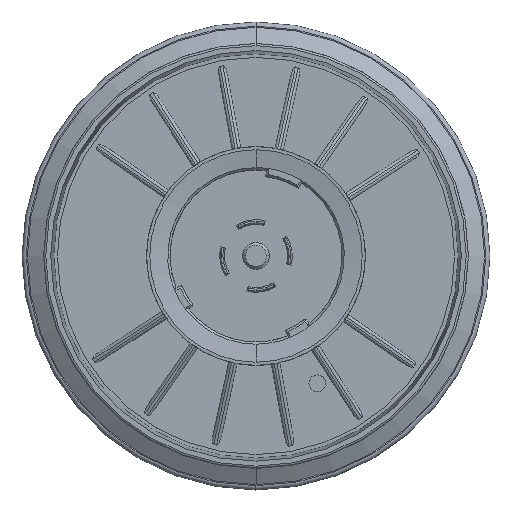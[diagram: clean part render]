
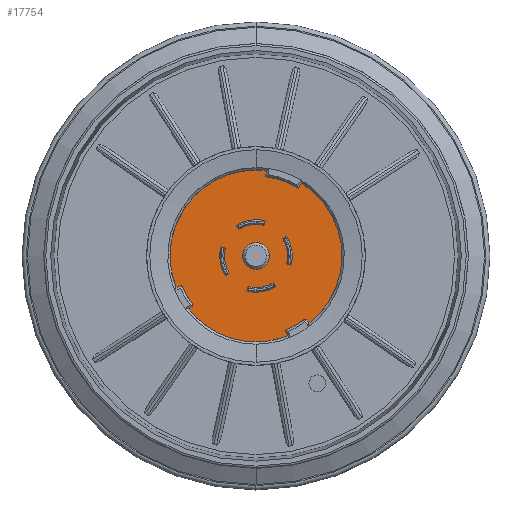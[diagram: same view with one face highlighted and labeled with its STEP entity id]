
A CAD part, top view. The second image highlights one B-rep face of the part: STEP entity #17754.
In plain terms, the highlighted planar face has unit normal (0, 0, 1).
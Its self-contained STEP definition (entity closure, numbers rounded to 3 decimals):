
#4462=CARTESIAN_POINT('',(0.,0.,-7.85));
#4463=DIRECTION('',(0.,0.,-1.));
#4464=DIRECTION('',(0.53,0.848,0.));
#4465=AXIS2_PLACEMENT_3D('',#4462,#4463,#4464);
#4467=CARTESIAN_POINT('',(0.,0.,-7.85));
#4468=DIRECTION('',(0.,0.,-1.));
#4469=DIRECTION('',(0.,-1.,0.));
#4470=AXIS2_PLACEMENT_3D('',#4467,#4468,#4469);
#4472=CARTESIAN_POINT('',(0.,0.,-7.85));
#4473=DIRECTION('',(0.,0.,-1.));
#4474=DIRECTION('',(-0.53,-0.848,0.));
#4475=AXIS2_PLACEMENT_3D('',#4472,#4473,#4474);
#4477=CARTESIAN_POINT('',(0.,0.,-7.85));
#4478=DIRECTION('',(0.,0.,-1.));
#4479=DIRECTION('',(0.,1.,0.));
#4480=AXIS2_PLACEMENT_3D('',#4477,#4478,#4479);
#4482=DIRECTION('',(0.438,0.899,0.));
#4483=VECTOR('',#4482,1.1);
#4484=CARTESIAN_POINT('',(6.181,12.673,-7.85));
#4485=LINE('',#4484,#4483);
#4486=CARTESIAN_POINT('',(0.,0.,-7.85));
#4487=DIRECTION('',(0.,0.,1.));
#4488=DIRECTION('',(0.53,0.848,0.));
#4489=AXIS2_PLACEMENT_3D('',#4486,#4487,#4488);
#4491=DIRECTION('',(-0.53,-0.848,0.));
#4492=VECTOR('',#4491,1.1);
#4493=CARTESIAN_POINT('',(8.055,12.89,-7.85));
#4494=LINE('',#4493,#4492);
#4495=CARTESIAN_POINT('',(0.,0.,-7.85));
#4496=DIRECTION('',(0.,0.,-1.));
#4497=DIRECTION('',(-1.,0.,0.));
#4498=AXIS2_PLACEMENT_3D('',#4495,#4496,#4497);
#4500=CARTESIAN_POINT('',(0.,0.,-7.85));
#4501=DIRECTION('',(0.,0.,-1.));
#4502=DIRECTION('',(1.,0.,0.));
#4503=AXIS2_PLACEMENT_3D('',#4500,#4501,#4502);
#4505=DIRECTION('',(-0.54,0.842,0.));
#4506=VECTOR('',#4505,0.8);
#4507=CARTESIAN_POINT('',(3.458,-5.386,-7.85));
#4508=LINE('',#4507,#4506);
#4509=CARTESIAN_POINT('',(0.,0.,-7.85));
#4510=DIRECTION('',(0.,0.,-1.));
#4511=DIRECTION('',(0.54,-0.842,0.));
#4512=AXIS2_PLACEMENT_3D('',#4509,#4510,#4511);
#4514=DIRECTION('',(-0.25,-0.968,0.));
#4515=VECTOR('',#4514,0.8);
#4516=CARTESIAN_POINT('',(-1.402,-5.422,-7.85));
#4517=LINE('',#4516,#4515);
#4518=CARTESIAN_POINT('',(0.,0.,-7.85));
#4519=DIRECTION('',(0.,0.,1.));
#4520=DIRECTION('',(-0.25,-0.968,0.));
#4521=AXIS2_PLACEMENT_3D('',#4518,#4519,#4520);
#4523=DIRECTION('',(-0.842,-0.54,0.));
#4524=VECTOR('',#4523,0.8);
#4525=CARTESIAN_POINT('',(5.386,3.458,-7.85));
#4526=LINE('',#4525,#4524);
#4527=CARTESIAN_POINT('',(0.,0.,-7.85));
#4528=DIRECTION('',(0.,0.,-1.));
#4529=DIRECTION('',(0.842,0.54,0.));
#4530=AXIS2_PLACEMENT_3D('',#4527,#4528,#4529);
#4532=DIRECTION('',(0.968,-0.25,0.));
#4533=VECTOR('',#4532,0.8);
#4534=CARTESIAN_POINT('',(5.422,-1.402,-7.85));
#4535=LINE('',#4534,#4533);
#4536=CARTESIAN_POINT('',(0.,0.,-7.85));
#4537=DIRECTION('',(0.,0.,1.));
#4538=DIRECTION('',(0.968,-0.25,0.));
#4539=AXIS2_PLACEMENT_3D('',#4536,#4537,#4538);
#4541=DIRECTION('',(0.54,-0.842,0.));
#4542=VECTOR('',#4541,0.8);
#4543=CARTESIAN_POINT('',(-3.458,5.386,-7.85));
#4544=LINE('',#4543,#4542);
#4545=CARTESIAN_POINT('',(0.,0.,-7.85));
#4546=DIRECTION('',(0.,0.,-1.));
#4547=DIRECTION('',(-0.54,0.842,0.));
#4548=AXIS2_PLACEMENT_3D('',#4545,#4546,#4547);
#4550=DIRECTION('',(0.25,0.968,0.));
#4551=VECTOR('',#4550,0.8);
#4552=CARTESIAN_POINT('',(1.402,5.422,-7.85));
#4553=LINE('',#4552,#4551);
#4554=CARTESIAN_POINT('',(0.,0.,-7.85));
#4555=DIRECTION('',(0.,0.,1.));
#4556=DIRECTION('',(0.25,0.968,0.));
#4557=AXIS2_PLACEMENT_3D('',#4554,#4555,#4556);
#4559=DIRECTION('',(0.842,0.54,0.));
#4560=VECTOR('',#4559,0.8);
#4561=CARTESIAN_POINT('',(-5.386,-3.458,-7.85));
#4562=LINE('',#4561,#4560);
#4563=CARTESIAN_POINT('',(0.,0.,-7.85));
#4564=DIRECTION('',(0.,0.,-1.));
#4565=DIRECTION('',(-0.842,-0.54,0.));
#4566=AXIS2_PLACEMENT_3D('',#4563,#4564,#4565);
#4568=DIRECTION('',(-0.968,0.25,0.));
#4569=VECTOR('',#4568,0.8);
#4570=CARTESIAN_POINT('',(-5.422,1.402,-7.85));
#4571=LINE('',#4570,#4569);
#4572=CARTESIAN_POINT('',(0.,0.,-7.85));
#4573=DIRECTION('',(0.,0.,1.));
#4574=DIRECTION('',(-0.968,0.25,0.));
#4575=AXIS2_PLACEMENT_3D('',#4572,#4573,#4574);
#8736=CARTESIAN_POINT('',(0.,15.2,-7.85));
#8737=CARTESIAN_POINT('',(6.663,13.662,-7.85));
#8738=VERTEX_POINT('',#8736);
#8739=VERTEX_POINT('',#8737);
#8822=CARTESIAN_POINT('',(8.055,12.89,-7.85));
#8823=VERTEX_POINT('',#8822);
#8830=CARTESIAN_POINT('',(7.472,11.957,-7.85));
#8831=VERTEX_POINT('',#8830);
#8832=CARTESIAN_POINT('',(6.181,12.673,-7.85));
#8833=VERTEX_POINT('',#8832);
#8834=CARTESIAN_POINT('',(-2.375,0.,-7.85));
#8835=CARTESIAN_POINT('',(2.375,0.,-7.85));
#8836=VERTEX_POINT('',#8834);
#8837=VERTEX_POINT('',#8835);
#9005=CARTESIAN_POINT('',(0.,-15.2,-7.85));
#9006=VERTEX_POINT('',#9005);
#9007=CARTESIAN_POINT('',(-8.055,-12.89,-7.85));
#9008=VERTEX_POINT('',#9007);
#9149=CARTESIAN_POINT('',(3.458,-5.386,-7.85));
#9150=CARTESIAN_POINT('',(3.025,-4.712,-7.85));
#9151=VERTEX_POINT('',#9149);
#9152=VERTEX_POINT('',#9150);
#9153=CARTESIAN_POINT('',(-1.402,-5.422,-7.85));
#9154=VERTEX_POINT('',#9153);
#9155=CARTESIAN_POINT('',(-1.602,-6.196,-7.85));
#9156=VERTEX_POINT('',#9155);
#9157=CARTESIAN_POINT('',(5.386,3.458,-7.85));
#9158=CARTESIAN_POINT('',(4.712,3.025,-7.85));
#9159=VERTEX_POINT('',#9157);
#9160=VERTEX_POINT('',#9158);
#9161=CARTESIAN_POINT('',(5.422,-1.402,-7.85));
#9162=VERTEX_POINT('',#9161);
#9163=CARTESIAN_POINT('',(6.196,-1.602,-7.85));
#9164=VERTEX_POINT('',#9163);
#9165=CARTESIAN_POINT('',(-3.458,5.386,-7.85));
#9166=CARTESIAN_POINT('',(-3.025,4.712,-7.85));
#9167=VERTEX_POINT('',#9165);
#9168=VERTEX_POINT('',#9166);
#9169=CARTESIAN_POINT('',(1.402,5.422,-7.85));
#9170=VERTEX_POINT('',#9169);
#9171=CARTESIAN_POINT('',(1.602,6.196,-7.85));
#9172=VERTEX_POINT('',#9171);
#9173=CARTESIAN_POINT('',(-5.386,-3.458,-7.85));
#9174=CARTESIAN_POINT('',(-4.712,-3.025,-7.85));
#9175=VERTEX_POINT('',#9173);
#9176=VERTEX_POINT('',#9174);
#9177=CARTESIAN_POINT('',(-5.422,1.402,-7.85));
#9178=VERTEX_POINT('',#9177);
#9179=CARTESIAN_POINT('',(-6.196,1.602,-7.85));
#9180=VERTEX_POINT('',#9179);
#17692=CARTESIAN_POINT('',(0.,0.,-7.85));
#17693=DIRECTION('',(0.,0.,1.));
#17694=DIRECTION('',(0.,1.,0.));
#17695=AXIS2_PLACEMENT_3D('',#17692,#17693,#17694);
#17696=PLANE('',#17695);
#17697=ORIENTED_EDGE('',*,*,#17126,.T.);
#17698=ORIENTED_EDGE('',*,*,#17124,.T.);
#17699=ORIENTED_EDGE('',*,*,#17122,.T.);
#17700=ORIENTED_EDGE('',*,*,#17120,.T.);
#17702=ORIENTED_EDGE('',*,*,#17701,.F.);
#17704=ORIENTED_EDGE('',*,*,#17703,.F.);
#17705=ORIENTED_EDGE('',*,*,#17685,.F.);
#17706=EDGE_LOOP('',(#17697,#17698,#17699,#17700,#17702,#17704,#17705));
#17707=FACE_OUTER_BOUND('',#17706,.F.);
#17709=ORIENTED_EDGE('',*,*,#17708,.F.);
#17711=ORIENTED_EDGE('',*,*,#17710,.F.);
#17712=EDGE_LOOP('',(#17709,#17711));
#17713=FACE_BOUND('',#17712,.F.);
#17715=ORIENTED_EDGE('',*,*,#17714,.T.);
#17717=ORIENTED_EDGE('',*,*,#17716,.T.);
#17719=ORIENTED_EDGE('',*,*,#17718,.T.);
#17721=ORIENTED_EDGE('',*,*,#17720,.T.);
#17722=EDGE_LOOP('',(#17715,#17717,#17719,#17721));
#17723=FACE_BOUND('',#17722,.F.);
#17725=ORIENTED_EDGE('',*,*,#17724,.T.);
#17727=ORIENTED_EDGE('',*,*,#17726,.T.);
#17729=ORIENTED_EDGE('',*,*,#17728,.T.);
#17731=ORIENTED_EDGE('',*,*,#17730,.T.);
#17732=EDGE_LOOP('',(#17725,#17727,#17729,#17731));
#17733=FACE_BOUND('',#17732,.F.);
#17735=ORIENTED_EDGE('',*,*,#17734,.T.);
#17737=ORIENTED_EDGE('',*,*,#17736,.T.);
#17739=ORIENTED_EDGE('',*,*,#17738,.T.);
#17741=ORIENTED_EDGE('',*,*,#17740,.T.);
#17742=EDGE_LOOP('',(#17735,#17737,#17739,#17741));
#17743=FACE_BOUND('',#17742,.F.);
#17745=ORIENTED_EDGE('',*,*,#17744,.T.);
#17747=ORIENTED_EDGE('',*,*,#17746,.T.);
#17749=ORIENTED_EDGE('',*,*,#17748,.T.);
#17751=ORIENTED_EDGE('',*,*,#17750,.T.);
#17752=EDGE_LOOP('',(#17745,#17747,#17749,#17751));
#17753=FACE_BOUND('',#17752,.F.);
#4466=CIRCLE('',#4465,15.2);
#4471=CIRCLE('',#4470,15.2);
#4476=CIRCLE('',#4475,15.2);
#4481=CIRCLE('',#4480,15.2);
#4490=CIRCLE('',#4489,14.1);
#4499=CIRCLE('',#4498,2.375);
#4504=CIRCLE('',#4503,2.375);
#4513=CIRCLE('',#4512,5.6);
#4522=CIRCLE('',#4521,6.4);
#4531=CIRCLE('',#4530,5.6);
#4540=CIRCLE('',#4539,6.4);
#4549=CIRCLE('',#4548,5.6);
#4558=CIRCLE('',#4557,6.4);
#4567=CIRCLE('',#4566,5.6);
#4576=CIRCLE('',#4575,6.4);
#17120=EDGE_CURVE('',#8738,#8739,#4481,.T.);
#17122=EDGE_CURVE('',#9008,#8738,#4476,.T.);
#17124=EDGE_CURVE('',#9006,#9008,#4471,.T.);
#17126=EDGE_CURVE('',#8823,#9006,#4466,.T.);
#17685=EDGE_CURVE('',#8823,#8831,#4494,.T.);
#17701=EDGE_CURVE('',#8833,#8739,#4485,.T.);
#17703=EDGE_CURVE('',#8831,#8833,#4490,.T.);
#17708=EDGE_CURVE('',#8836,#8837,#4499,.T.);
#17710=EDGE_CURVE('',#8837,#8836,#4504,.T.);
#17714=EDGE_CURVE('',#9151,#9152,#4508,.T.);
#17716=EDGE_CURVE('',#9152,#9154,#4513,.T.);
#17718=EDGE_CURVE('',#9154,#9156,#4517,.T.);
#17720=EDGE_CURVE('',#9156,#9151,#4522,.T.);
#17724=EDGE_CURVE('',#9159,#9160,#4526,.T.);
#17726=EDGE_CURVE('',#9160,#9162,#4531,.T.);
#17728=EDGE_CURVE('',#9162,#9164,#4535,.T.);
#17730=EDGE_CURVE('',#9164,#9159,#4540,.T.);
#17734=EDGE_CURVE('',#9167,#9168,#4544,.T.);
#17736=EDGE_CURVE('',#9168,#9170,#4549,.T.);
#17738=EDGE_CURVE('',#9170,#9172,#4553,.T.);
#17740=EDGE_CURVE('',#9172,#9167,#4558,.T.);
#17744=EDGE_CURVE('',#9175,#9176,#4562,.T.);
#17746=EDGE_CURVE('',#9176,#9178,#4567,.T.);
#17748=EDGE_CURVE('',#9178,#9180,#4571,.T.);
#17750=EDGE_CURVE('',#9180,#9175,#4576,.T.);
#17754=ADVANCED_FACE('',(#17707,#17713,#17723,#17733,#17743,#17753),#17696,.T.);
